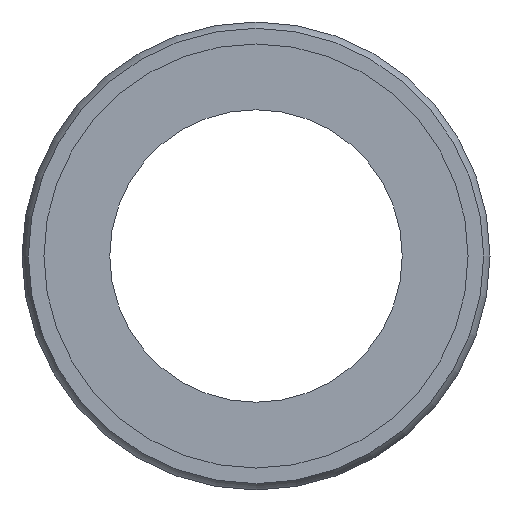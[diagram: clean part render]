
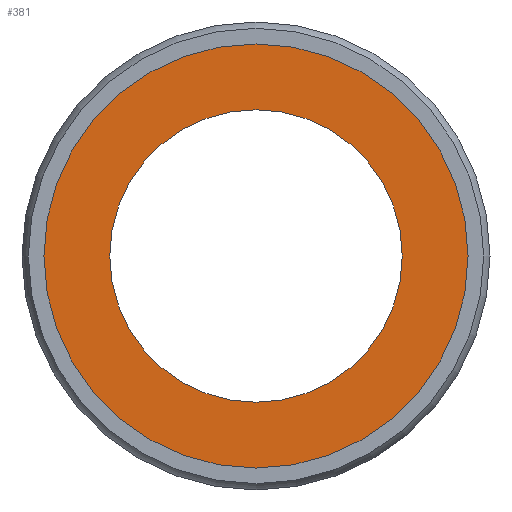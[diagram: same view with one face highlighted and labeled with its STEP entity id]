
A CAD part, left-side view. The second image highlights one B-rep face of the part: STEP entity #381.
In plain terms, the highlighted planar face has unit normal (-1, 0, 0).
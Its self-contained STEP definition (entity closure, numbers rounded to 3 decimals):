
#354=CARTESIAN_POINT('',(0.1,0.0,12.25));
#355=DIRECTION('',(-1.0,0.0,0.0));
#356=DIRECTION('',(0.0,0.0,1.0));
#357=AXIS2_PLACEMENT_3D('',#354,#355,#356);
#358=PLANE('',#357);
#359=CARTESIAN_POINT('',(0.1,0.0,14.5));
#360=VERTEX_POINT('',#359);
#361=CARTESIAN_POINT('',(0.1,0.0,0.));
#362=DIRECTION('',(1.0,0.0,0.0));
#363=DIRECTION('',(0.0,0.0,1.0));
#364=AXIS2_PLACEMENT_3D('',#361,#362,#363);
#365=CIRCLE('',#364,14.5);
#366=EDGE_CURVE('',#360,#360,#365,.T.);
#367=ORIENTED_EDGE('',*,*,#366,.F.);
#368=EDGE_LOOP('',(#367));
#369=FACE_OUTER_BOUND('',#368,.T.);
#370=CARTESIAN_POINT('',(0.1,0.0,10.));
#371=VERTEX_POINT('',#370);
#372=CARTESIAN_POINT('',(0.1,0.0,0.));
#373=DIRECTION('',(-1.0,0.0,0.0));
#374=DIRECTION('',(0.0,0.0,1.0));
#375=AXIS2_PLACEMENT_3D('',#372,#373,#374);
#376=CIRCLE('',#375,10.);
#377=EDGE_CURVE('',#371,#371,#376,.T.);
#378=ORIENTED_EDGE('',*,*,#377,.F.);
#379=EDGE_LOOP('',(#378));
#380=FACE_BOUND('',#379,.T.);
#381=ADVANCED_FACE('',(#369,#380),#358,.T.);
